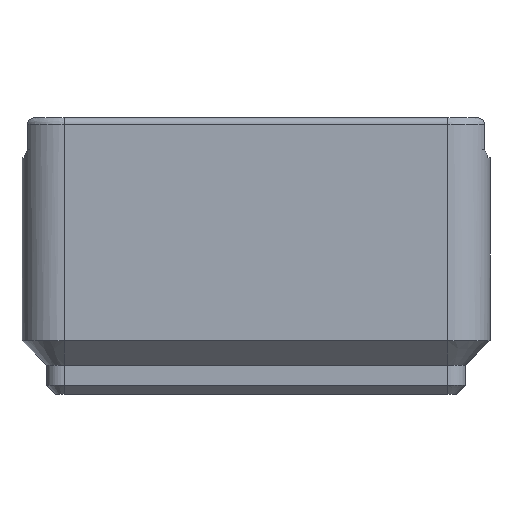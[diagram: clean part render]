
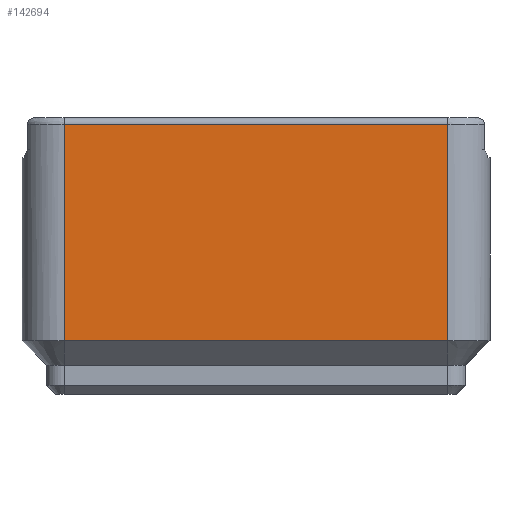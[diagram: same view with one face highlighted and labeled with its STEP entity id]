
A CAD part, left-side view. The second image highlights one B-rep face of the part: STEP entity #142694.
In plain terms, the highlighted planar face has unit normal (-1, 0, 0).
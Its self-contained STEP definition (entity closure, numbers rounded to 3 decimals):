
#2988 = CYLINDRICAL_SURFACE('',#2989,3.75);
#2989 = AXIS2_PLACEMENT_3D('',#2990,#2991,#2992);
#2990 = CARTESIAN_POINT('',(-38.,-17.,2.6));
#2991 = DIRECTION('',(0.,0.,-1.));
#2992 = DIRECTION('',(-1.,0.,0.));
#52133 = CYLINDRICAL_SURFACE('',#52134,3.75);
#52134 = AXIS2_PLACEMENT_3D('',#52135,#52136,#52137);
#52135 = CARTESIAN_POINT('',(-38.,17.,2.6));
#52136 = DIRECTION('',(0.,0.,-1.));
#52137 = DIRECTION('',(-1.,0.,0.));
#53497 = EDGE_CURVE('',#53498,#53500,#53502,.T.);
#53498 = VERTEX_POINT('',#53499);
#53499 = CARTESIAN_POINT('',(-41.75,-17.,4.75));
#53500 = VERTEX_POINT('',#53501);
#53501 = CARTESIAN_POINT('',(-41.75,-17.,23.951));
#53502 = SURFACE_CURVE('',#53503,(#53507,#53514),.PCURVE_S1.);
#53503 = LINE('',#53504,#53505);
#53504 = CARTESIAN_POINT('',(-41.75,-17.,4.75));
#53505 = VECTOR('',#53506,1.);
#53506 = DIRECTION('',(0.,0.,1.));
#53507 = PCURVE('',#2988,#53508);
#53508 = DEFINITIONAL_REPRESENTATION('',(#53509),#53513);
#53509 = LINE('',#53510,#53511);
#53510 = CARTESIAN_POINT('',(6.283,-2.15));
#53511 = VECTOR('',#53512,1.);
#53512 = DIRECTION('',(0.,-1.));
#53513 = ( GEOMETRIC_REPRESENTATION_CONTEXT(2) 
PARAMETRIC_REPRESENTATION_CONTEXT() REPRESENTATION_CONTEXT('2D SPACE',''
  ) );
#53514 = PCURVE('',#53515,#53520);
#53515 = PLANE('',#53516);
#53516 = AXIS2_PLACEMENT_3D('',#53517,#53518,#53519);
#53517 = CARTESIAN_POINT('',(-41.75,-17.,2.6));
#53518 = DIRECTION('',(-1.,0.,0.));
#53519 = DIRECTION('',(0.,1.,0.));
#53520 = DEFINITIONAL_REPRESENTATION('',(#53521),#53525);
#53521 = LINE('',#53522,#53523);
#53522 = CARTESIAN_POINT('',(0.,-2.15));
#53523 = VECTOR('',#53524,1.);
#53524 = DIRECTION('',(0.,-1.));
#53525 = ( GEOMETRIC_REPRESENTATION_CONTEXT(2) 
PARAMETRIC_REPRESENTATION_CONTEXT() REPRESENTATION_CONTEXT('2D SPACE',''
  ) );
#139147 = EDGE_CURVE('',#139148,#139150,#139152,.T.);
#139148 = VERTEX_POINT('',#139149);
#139149 = CARTESIAN_POINT('',(-41.75,17.,23.951));
#139150 = VERTEX_POINT('',#139151);
#139151 = CARTESIAN_POINT('',(-41.75,17.,4.75));
#139152 = SURFACE_CURVE('',#139153,(#139157,#139164),.PCURVE_S1.);
#139153 = LINE('',#139154,#139155);
#139154 = CARTESIAN_POINT('',(-41.75,17.,25.4));
#139155 = VECTOR('',#139156,1.);
#139156 = DIRECTION('',(0.,0.,-1.));
#139157 = PCURVE('',#52133,#139158);
#139158 = DEFINITIONAL_REPRESENTATION('',(#139159),#139163);
#139159 = LINE('',#139160,#139161);
#139160 = CARTESIAN_POINT('',(0.,-22.8));
#139161 = VECTOR('',#139162,1.);
#139162 = DIRECTION('',(0.,1.));
#139163 = ( GEOMETRIC_REPRESENTATION_CONTEXT(2) 
PARAMETRIC_REPRESENTATION_CONTEXT() REPRESENTATION_CONTEXT('2D SPACE',''
  ) );
#139164 = PCURVE('',#53515,#139165);
#139165 = DEFINITIONAL_REPRESENTATION('',(#139166),#139170);
#139166 = LINE('',#139167,#139168);
#139167 = CARTESIAN_POINT('',(34.,-22.8));
#139168 = VECTOR('',#139169,1.);
#139169 = DIRECTION('',(0.,1.));
#139170 = ( GEOMETRIC_REPRESENTATION_CONTEXT(2) 
PARAMETRIC_REPRESENTATION_CONTEXT() REPRESENTATION_CONTEXT('2D SPACE',''
  ) );
#142694 = ADVANCED_FACE('',(#142695),#53515,.T.);
#142695 = FACE_BOUND('',#142696,.T.);
#142696 = EDGE_LOOP('',(#142697,#142698,#142724,#142725));
#142697 = ORIENTED_EDGE('',*,*,#53497,.T.);
#142698 = ORIENTED_EDGE('',*,*,#142699,.F.);
#142699 = EDGE_CURVE('',#139148,#53500,#142700,.T.);
#142700 = SURFACE_CURVE('',#142701,(#142705,#142712),.PCURVE_S1.);
#142701 = LINE('',#142702,#142703);
#142702 = CARTESIAN_POINT('',(-41.75,17.,23.951));
#142703 = VECTOR('',#142704,1.);
#142704 = DIRECTION('',(-0.,-1.,-0.));
#142705 = PCURVE('',#53515,#142706);
#142706 = DEFINITIONAL_REPRESENTATION('',(#142707),#142711);
#142707 = LINE('',#142708,#142709);
#142708 = CARTESIAN_POINT('',(34.,-21.351));
#142709 = VECTOR('',#142710,1.);
#142710 = DIRECTION('',(-1.,0.));
#142711 = ( GEOMETRIC_REPRESENTATION_CONTEXT(2) 
PARAMETRIC_REPRESENTATION_CONTEXT() REPRESENTATION_CONTEXT('2D SPACE',''
  ) );
#142712 = PCURVE('',#142713,#142718);
#142713 = CYLINDRICAL_SURFACE('',#142714,0.6);
#142714 = AXIS2_PLACEMENT_3D('',#142715,#142716,#142717);
#142715 = CARTESIAN_POINT('',(-41.15,17.,23.951));
#142716 = DIRECTION('',(-0.,-1.,-0.));
#142717 = DIRECTION('',(-1.,0.,0.));
#142718 = DEFINITIONAL_REPRESENTATION('',(#142719),#142723);
#142719 = LINE('',#142720,#142721);
#142720 = CARTESIAN_POINT('',(-0.,0.));
#142721 = VECTOR('',#142722,1.);
#142722 = DIRECTION('',(-0.,1.));
#142723 = ( GEOMETRIC_REPRESENTATION_CONTEXT(2) 
PARAMETRIC_REPRESENTATION_CONTEXT() REPRESENTATION_CONTEXT('2D SPACE',''
  ) );
#142724 = ORIENTED_EDGE('',*,*,#139147,.T.);
#142725 = ORIENTED_EDGE('',*,*,#142726,.F.);
#142726 = EDGE_CURVE('',#53498,#139150,#142727,.T.);
#142727 = SURFACE_CURVE('',#142728,(#142732,#142739),.PCURVE_S1.);
#142728 = LINE('',#142729,#142730);
#142729 = CARTESIAN_POINT('',(-41.75,-17.,4.75));
#142730 = VECTOR('',#142731,1.);
#142731 = DIRECTION('',(0.,1.,0.));
#142732 = PCURVE('',#53515,#142733);
#142733 = DEFINITIONAL_REPRESENTATION('',(#142734),#142738);
#142734 = LINE('',#142735,#142736);
#142735 = CARTESIAN_POINT('',(0.,-2.15));
#142736 = VECTOR('',#142737,1.);
#142737 = DIRECTION('',(1.,0.));
#142738 = ( GEOMETRIC_REPRESENTATION_CONTEXT(2) 
PARAMETRIC_REPRESENTATION_CONTEXT() REPRESENTATION_CONTEXT('2D SPACE',''
  ) );
#142739 = PCURVE('',#142740,#142745);
#142740 = PLANE('',#142741);
#142741 = AXIS2_PLACEMENT_3D('',#142742,#142743,#142744);
#142742 = CARTESIAN_POINT('',(-40.675,-17.,3.675));
#142743 = DIRECTION('',(0.707,0.,
    0.707));
#142744 = DIRECTION('',(0.,-1.,0.));
#142745 = DEFINITIONAL_REPRESENTATION('',(#142746),#142750);
#142746 = LINE('',#142747,#142748);
#142747 = CARTESIAN_POINT('',(-0.,-1.52));
#142748 = VECTOR('',#142749,1.);
#142749 = DIRECTION('',(-1.,0.));
#142750 = ( GEOMETRIC_REPRESENTATION_CONTEXT(2) 
PARAMETRIC_REPRESENTATION_CONTEXT() REPRESENTATION_CONTEXT('2D SPACE',''
  ) );
